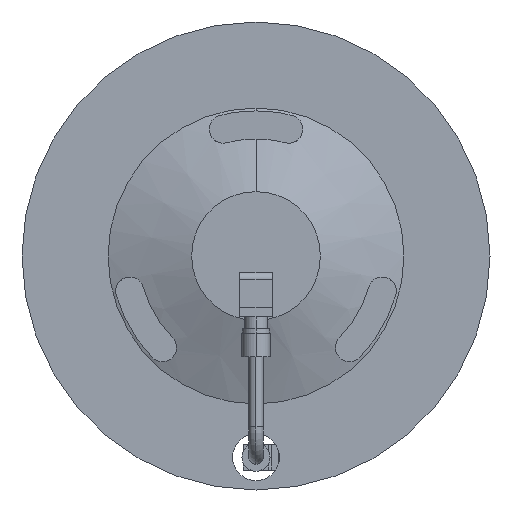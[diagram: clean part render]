
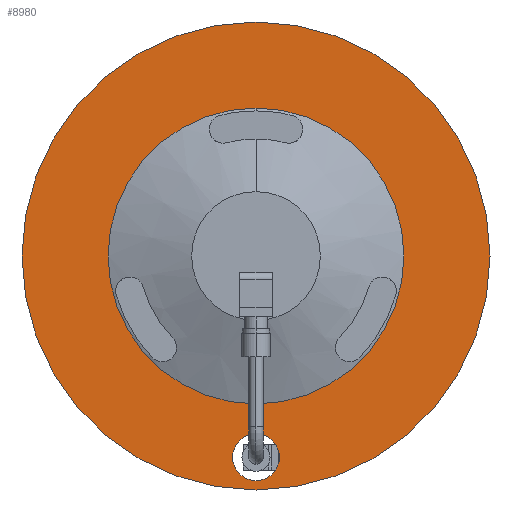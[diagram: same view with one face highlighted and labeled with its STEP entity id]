
A CAD part, front view. The second image highlights one B-rep face of the part: STEP entity #8980.
In plain terms, the highlighted planar face has unit normal (0, -1, 0).
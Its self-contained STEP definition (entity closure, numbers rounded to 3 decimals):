
#354 = DIRECTION ( 'NONE',  ( 0., 0., -1. ) ) ;
#425 = DIRECTION ( 'NONE',  ( 0., -1., 0. ) ) ;
#430 = CARTESIAN_POINT ( 'NONE',  ( 0., -129.3, -76. ) ) ;
#495 = FACE_BOUND ( 'NONE', #11450, .T. ) ;
#542 = CARTESIAN_POINT ( 'NONE',  ( 0., -129.3, -100. ) ) ;
#750 = AXIS2_PLACEMENT_3D ( 'NONE', #9535, #2111, #6141 ) ;
#814 = EDGE_CURVE ( 'NONE', #12059, #2231, #3421, .T. ) ;
#1049 = CIRCLE ( 'NONE', #8800, 100. ) ;
#1176 = EDGE_CURVE ( 'NONE', #3387, #7949, #6312, .T. ) ;
#1188 = DIRECTION ( 'NONE',  ( 0., 1., 0. ) ) ;
#1287 = DIRECTION ( 'NONE',  ( 0., -1., 0. ) ) ;
#1543 = ORIENTED_EDGE ( 'NONE', *, *, #13080, .F. ) ;
#1836 = EDGE_LOOP ( 'NONE', ( #13236, #1543 ) ) ;
#1853 = ORIENTED_EDGE ( 'NONE', *, *, #814, .F. ) ;
#1912 = DIRECTION ( 'NONE',  ( 0., 0., -1. ) ) ;
#2111 = DIRECTION ( 'NONE',  ( 0., -1., 0. ) ) ;
#2139 = CIRCLE ( 'NONE', #9678, 10. ) ;
#2231 = VERTEX_POINT ( 'NONE', #13692 ) ;
#2306 = PLANE ( 'NONE',  #12878 ) ;
#2428 = EDGE_CURVE ( 'NONE', #8899, #8524, #2139, .T. ) ;
#3110 = ORIENTED_EDGE ( 'NONE', *, *, #1176, .F. ) ;
#3387 = VERTEX_POINT ( 'NONE', #7477 ) ;
#3421 = CIRCLE ( 'NONE', #10296, 63.217 ) ;
#3574 = DIRECTION ( 'NONE',  ( 0., 0., 1. ) ) ;
#3659 = AXIS2_PLACEMENT_3D ( 'NONE', #4306, #1188, #12583 ) ;
#4306 = CARTESIAN_POINT ( 'NONE',  ( 0., -129.3, 0. ) ) ;
#4886 = CARTESIAN_POINT ( 'NONE',  ( 0., -129.3, -96. ) ) ;
#4996 = DIRECTION ( 'NONE',  ( 0., 0., -1. ) ) ;
#5315 = DIRECTION ( 'NONE',  ( 0., 0., -1. ) ) ;
#5661 = DIRECTION ( 'NONE',  ( 0., 1., 0. ) ) ;
#5779 = CARTESIAN_POINT ( 'NONE',  ( 0., -129.3, 63.217 ) ) ;
#5985 = CARTESIAN_POINT ( 'NONE',  ( -100., -129.3, 0. ) ) ;
#6077 = DIRECTION ( 'NONE',  ( 0., -1., 0. ) ) ;
#6141 = DIRECTION ( 'NONE',  ( 0., 0., -1. ) ) ;
#6205 = EDGE_LOOP ( 'NONE', ( #3110, #13239 ) ) ;
#6312 = CIRCLE ( 'NONE', #3659, 100. ) ;
#7477 = CARTESIAN_POINT ( 'NONE',  ( 0., -129.3, 100. ) ) ;
#7919 = FACE_OUTER_BOUND ( 'NONE', #6205, .T. ) ;
#7949 = VERTEX_POINT ( 'NONE', #542 ) ;
#8181 = EDGE_CURVE ( 'NONE', #2231, #12059, #8655, .T. ) ;
#8524 = VERTEX_POINT ( 'NONE', #4886 ) ;
#8655 = CIRCLE ( 'NONE', #13102, 63.217 ) ;
#8800 = AXIS2_PLACEMENT_3D ( 'NONE', #10541, #5661, #3574 ) ;
#8899 = VERTEX_POINT ( 'NONE', #430 ) ;
#8980 = ADVANCED_FACE ( 'NONE', ( #10000, #495, #7919 ), #2306, .T. ) ;
#9535 = CARTESIAN_POINT ( 'NONE',  ( 0., -129.3, -86. ) ) ;
#9678 = AXIS2_PLACEMENT_3D ( 'NONE', #12259, #6077, #1912 ) ;
#10000 = FACE_BOUND ( 'NONE', #1836, .T. ) ;
#10211 = DIRECTION ( 'NONE',  ( 0., -1., 0. ) ) ;
#10296 = AXIS2_PLACEMENT_3D ( 'NONE', #10901, #425, #354 ) ;
#10541 = CARTESIAN_POINT ( 'NONE',  ( 0., -129.3, 0. ) ) ;
#10732 = ORIENTED_EDGE ( 'NONE', *, *, #8181, .F. ) ;
#10794 = CARTESIAN_POINT ( 'NONE',  ( 0., -129.3, 0. ) ) ;
#10901 = CARTESIAN_POINT ( 'NONE',  ( 0., -129.3, 0. ) ) ;
#11450 = EDGE_LOOP ( 'NONE', ( #1853, #10732 ) ) ;
#12059 = VERTEX_POINT ( 'NONE', #5779 ) ;
#12259 = CARTESIAN_POINT ( 'NONE',  ( 0., -129.3, -86. ) ) ;
#12583 = DIRECTION ( 'NONE',  ( 0., 0., 1. ) ) ;
#12878 = AXIS2_PLACEMENT_3D ( 'NONE', #5985, #10211, #4996 ) ;
#12904 = EDGE_CURVE ( 'NONE', #7949, #3387, #1049, .T. ) ;
#13080 = EDGE_CURVE ( 'NONE', #8524, #8899, #13163, .T. ) ;
#13102 = AXIS2_PLACEMENT_3D ( 'NONE', #10794, #1287, #5315 ) ;
#13163 = CIRCLE ( 'NONE', #750, 10. ) ;
#13236 = ORIENTED_EDGE ( 'NONE', *, *, #2428, .F. ) ;
#13239 = ORIENTED_EDGE ( 'NONE', *, *, #12904, .F. ) ;
#13692 = CARTESIAN_POINT ( 'NONE',  ( 0., -129.3, -63.217 ) ) ;
